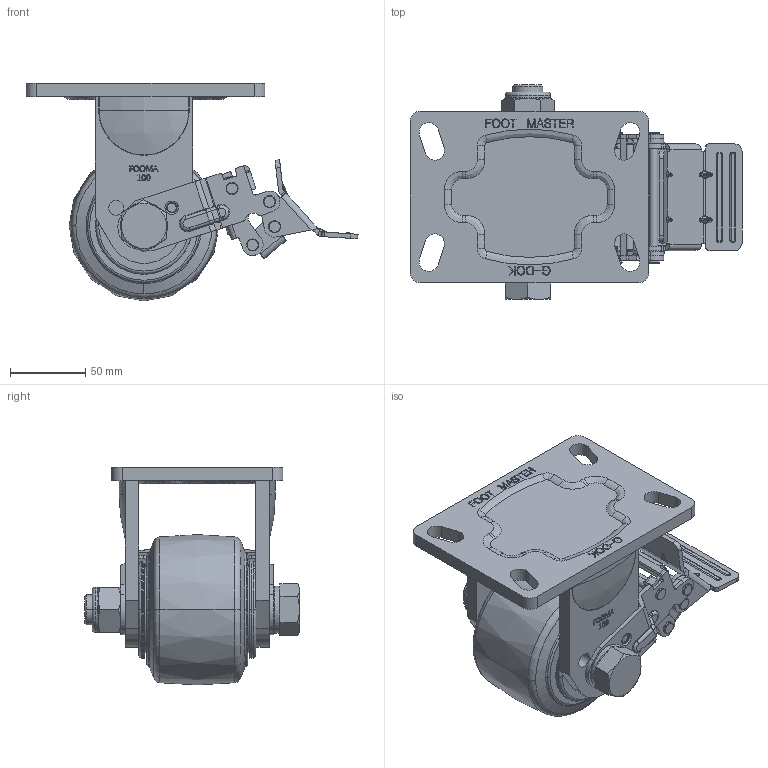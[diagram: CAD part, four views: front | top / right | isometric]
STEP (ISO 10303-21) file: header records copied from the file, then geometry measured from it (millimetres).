
FILE_DESCRIPTION((''),'2;1');
FILE_NAME('GF-100B-RF-MUD.stp','2012-06-06T16:22:59',(''),(''),'Mechanical Desktop 2009','Mechanical Desktop 2009',', , ');
FILE_SCHEMA(('CONFIG_CONTROL_DESIGN'));
Length unit declared in the file: millimetre
Products named in the file (2): GF-100B-RF-MUD; GF-RF-PLATE
Assembly tree (1 placements, depth 2):
  GF-100B-RF-MUD
    GF-RF-PLATE
Bounding box: 220.92 x 143 x 145 mm (x, y, z)
Volume: 885899.6 mm3; surface area: 167081.9 mm2
Topology: 9 solids, 9 shells, 1772 faces, 4683 edges, 2970 vertices
Faces by surface type: bspline 707, plane 520, cylinder 417, torus 82, cone 42, sphere 4
Entity records: 66946 total; most frequent: CARTESIAN_POINT 26061, ORIENTED_EDGE 9288, DIRECTION 7332, EDGE_CURVE 4644, VERTEX_POINT 2970, AXIS2_PLACEMENT_3D 2587, VECTOR 2158, LINE 2158
